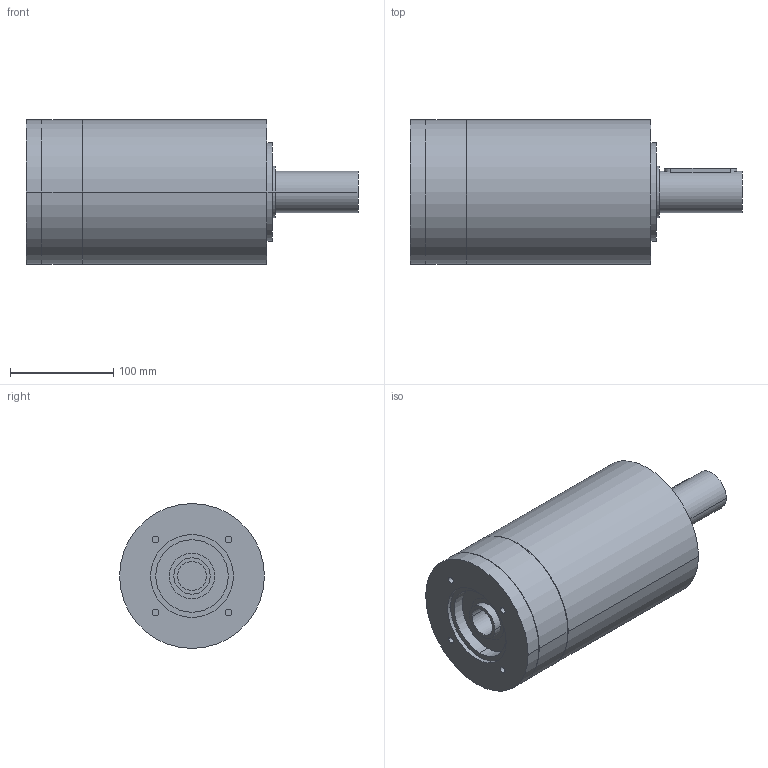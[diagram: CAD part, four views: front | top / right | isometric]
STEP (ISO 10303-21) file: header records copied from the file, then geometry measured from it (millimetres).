
FILE_DESCRIPTION(('CoCreate Modeling STEP Export'),'2;1');
FILE_NAME('GPR150_ig-9-12-16-20-28-35_40_B14_28_P02.stp','2014-08-19T17:03:43',(''),(''),'CoCreate Modeling STEP processor for AP214 (Solid Model)','CoCreate Modeling 16.00C 25-Feb-2009 (C) Parametric Technology GmbH','');
FILE_SCHEMA(('AUTOMOTIVE_DESIGN { 1 0 10303 214 1 1 1 1 }'));
Length unit declared in the file: millimetre
Products named in the file (2): GPR150_ig-9-12-16-20-28-35_40_B14_28_P02
Assembly tree (1 placements, depth 2):
  GPR150_ig-9-12-16-20-28-35_40_B14_28_P02
    GPR150_ig-9-12-16-20-28-35_40_B14_28_P02
Bounding box: 321 x 140 x 140 mm (x, y, z)
Volume: 3611315.4 mm3; surface area: 164321.2 mm2
Topology: 1 solids, 1 shells, 83 faces, 204 edges, 144 vertices
Faces by surface type: cylinder 50, plane 27, cone 6
Entity records: 2095 total; most frequent: ORIENTED_EDGE 404, CARTESIAN_POINT 399, DIRECTION 272, EDGE_CURVE 202, VERTEX_POINT 144, EDGE_LOOP 106, AXIS2_PLACEMENT_3D 105, FACE_OUTER_BOUND 83
